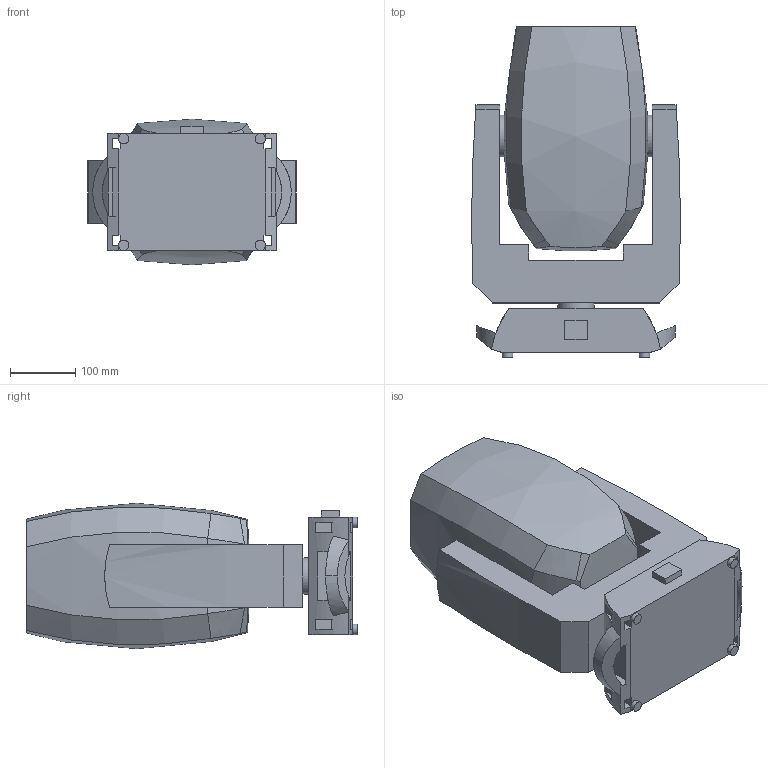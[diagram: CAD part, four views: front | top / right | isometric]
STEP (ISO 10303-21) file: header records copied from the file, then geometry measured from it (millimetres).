
FILE_DESCRIPTION(/* description */ (''),/* implementation_level */ '2;1');
FILE_NAME(/* name */ 'C:\Users\dgooch\Documents\!!CADENG\PRO\ROGUE Outcast 1L Beam\CAD Blocks\Rogue Outcast 1LBeam_0.stp',/* time_stamp */ '2022-06-07T15:44:02-04:00',/* author */ ('dgooch'),/* organization */ (''),/* preprocessor_version */ 'ST-DEVELOPER v19',/* originating_system */ 'Autodesk Inventor 2023',/* authorisation */ '');
FILE_SCHEMA (('AUTOMOTIVE_DESIGN { 1 0 10303 214 3 1 1 }'));
Length unit declared in the file: millimetre
Products named in the file (4): Rogue Outcast 1LBeam; Base; Arm; Head
Assembly tree (3 placements, depth 2):
  Rogue Outcast 1LBeam
    Base
    Arm
    Head
Bounding box: 318.98 x 505 x 222.19 mm (x, y, z)
Volume: 19687578.6 mm3; surface area: 720124.3 mm2
Topology: 3 solids, 3 shells, 116 faces, 318 edges, 208 vertices
Faces by surface type: plane 69, cylinder 25, bspline 12, sphere 6, cone 4
Full cylindrical faces by diameter (mm): 16 x4, 55 x2, 64 x4, 169.189 x1
Entity records: 5532 total; most frequent: CARTESIAN_POINT 2466, ORIENTED_EDGE 636, DIRECTION 571, EDGE_CURVE 318, VERTEX_POINT 208, AXIS2_PLACEMENT_3D 200, LINE 171, VECTOR 171
